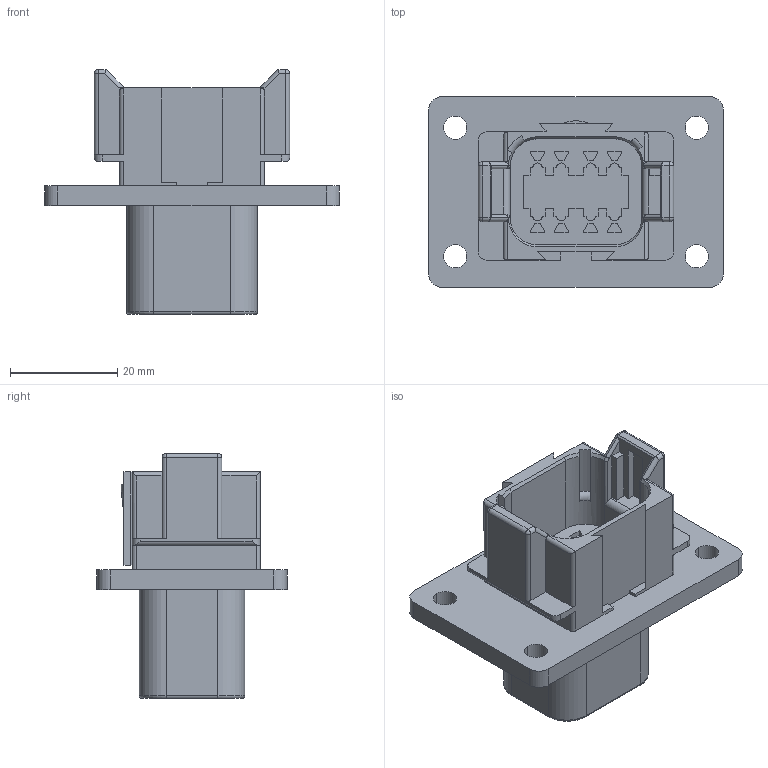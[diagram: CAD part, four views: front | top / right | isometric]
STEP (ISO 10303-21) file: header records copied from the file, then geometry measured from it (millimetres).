
FILE_DESCRIPTION((''),'2;1');
FILE_NAME('C-DT04-08PA-L012','2013-01-30T',('workeradm'),('Tyco Electronics Ltd.'),'PRO/ENGINEER BY PARAMETRIC TECHNOLOGY CORPORATION, 2010430','PRO/ENGINEER BY PARAMETRIC TECHNOLOGY CORPORATION, 2010430','');
FILE_SCHEMA(('AUTOMOTIVE_DESIGN { 1 0 10303 214 1 1 1 1 }'));
Length unit declared in the file: millimetre
Products named in the file (1): C-DT04-08PA-L012
Bounding box: 54.99 x 35.51 x 45.67 mm (x, y, z)
Volume: 21132.4 mm3; surface area: 11064 mm2
Topology: 1 solids, 1 shells, 343 faces, 894 edges, 582 vertices
Faces by surface type: plane 209, cylinder 117, cone 7, torus 6, sphere 4
Entity records: 13654 total; most frequent: CARTESIAN_POINT 2120, ORIENTED_EDGE 1788, DIRECTION 1732, PRESENTATION_STYLE_ASSIGNMENT 895, STYLED_ITEM 895, CURVE_STYLE 894, EDGE_CURVE 894, VECTOR 644
